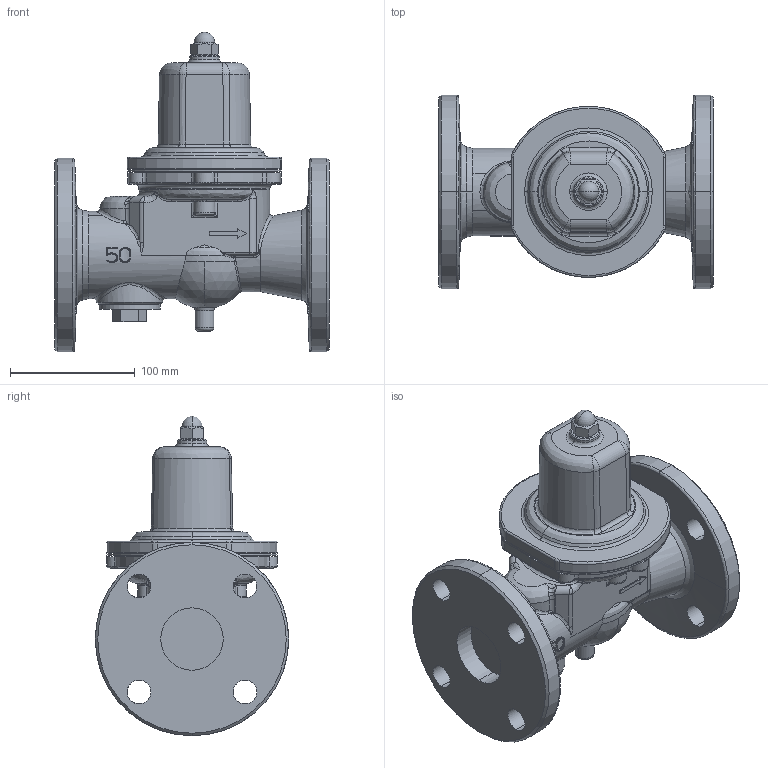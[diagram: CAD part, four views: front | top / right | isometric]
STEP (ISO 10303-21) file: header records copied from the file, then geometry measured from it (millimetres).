
FILE_DESCRIPTION( (''), '2;1');
FILE_NAME ('PC2091.2040.GD-27-NE 50A_17634.stp','2026-03-26T16:57:34',(''),(''),'spGate 21.9.4 (****-****-****-****)','','');
FILE_SCHEMA (('AUTOMOTIVE_DESIGN'));
Length unit declared in the file: millimetre
Products named in the file (6): Assembly; GD-26-NE ダイヤフラム 50A; GD-26-NE 保護筒 50A; GD-26-NE 六角袋ナット 32-50A; GD-26-NE ストレーナキャップ 32-50A; GD-27-NE 弁箱 50A
Assembly tree (5 placements, depth 2):
  Assembly
    GD-26-NE ダイヤフラム 50A
    GD-26-NE 保護筒 50A
    GD-26-NE 六角袋ナット 32-50A
    GD-26-NE ストレーナキャップ 32-50A
    GD-27-NE 弁箱 50A
Bounding box: 220 x 155 x 256 mm (x, y, z)
Volume: 2144902 mm3; surface area: 242786.5 mm2
Topology: 5 solids, 5 shells, 440 faces, 1076 edges, 629 vertices
Faces by surface type: bspline 211, cylinder 134, plane 73, sphere 22
Full cylindrical faces by diameter (mm): 18 x1
Entity records: 31167 total; most frequent: CARTESIAN_POINT 14033, ORIENTED_EDGE 2084, COLOUR_RGB 1487, PRESENTATION_STYLE_ASSIGNMENT 1487, STYLED_ITEM 1487, DIRECTION 1467, EDGE_CURVE 1042, DRAUGHTING_PRE_DEFINED_CURVE_FONT 1042
